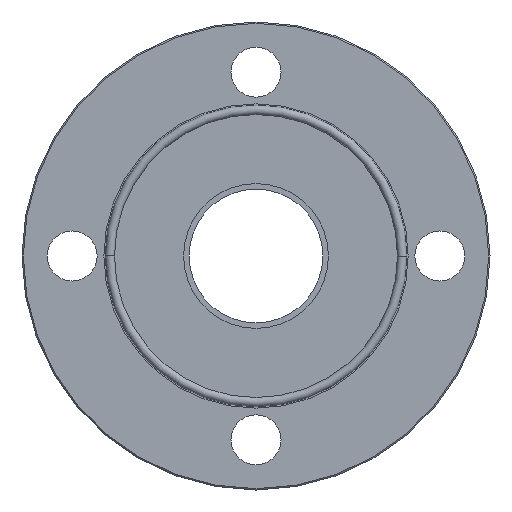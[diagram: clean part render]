
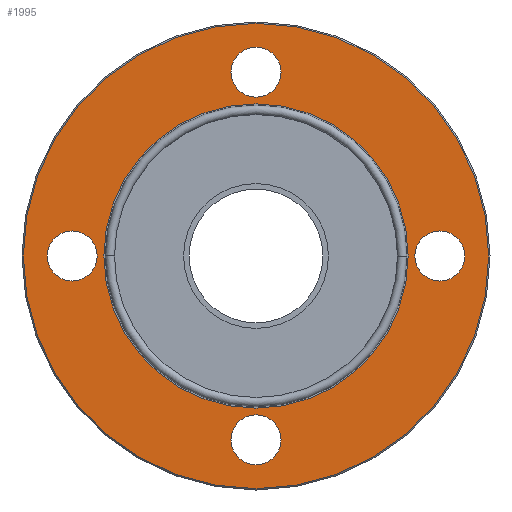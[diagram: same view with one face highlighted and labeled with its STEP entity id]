
A CAD part, left-side view. The second image highlights one B-rep face of the part: STEP entity #1995.
In plain terms, the highlighted planar face has unit normal (-1, 0, 0).
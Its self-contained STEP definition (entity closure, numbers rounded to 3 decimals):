
#925=PLANE('',#7444);
#1762=FACE_BOUND('',#2802,.T.);
#1763=FACE_BOUND('',#2803,.T.);
#1764=FACE_BOUND('',#2804,.T.);
#1765=FACE_BOUND('',#2805,.T.);
#1766=FACE_BOUND('',#2806,.T.);
#1767=FACE_BOUND('',#2807,.T.);
#1995=ADVANCED_FACE('',(#1762,#1763,#1764,#1765,#1766,#1767),#925,.T.);
#2802=EDGE_LOOP('',(#3844,#3845));
#2803=EDGE_LOOP('',(#3846,#3847));
#2804=EDGE_LOOP('',(#3848,#3849));
#2805=EDGE_LOOP('',(#3850,#3851));
#2806=EDGE_LOOP('',(#3852,#3853));
#2807=EDGE_LOOP('',(#3854,#3855));
#3844=ORIENTED_EDGE('',*,*,#6631,.T.);
#3845=ORIENTED_EDGE('',*,*,#6065,.T.);
#3846=ORIENTED_EDGE('',*,*,#6632,.F.);
#3847=ORIENTED_EDGE('',*,*,#6315,.F.);
#3848=ORIENTED_EDGE('',*,*,#6633,.F.);
#3849=ORIENTED_EDGE('',*,*,#6311,.F.);
#3850=ORIENTED_EDGE('',*,*,#6634,.F.);
#3851=ORIENTED_EDGE('',*,*,#6307,.F.);
#3852=ORIENTED_EDGE('',*,*,#6635,.F.);
#3853=ORIENTED_EDGE('',*,*,#6303,.F.);
#3854=ORIENTED_EDGE('',*,*,#6636,.F.);
#3855=ORIENTED_EDGE('',*,*,#6295,.F.);
#5324=VERTEX_POINT('',#9191);
#5325=VERTEX_POINT('',#9192);
#5489=VERTEX_POINT('',#10791);
#5490=VERTEX_POINT('',#10793);
#5497=VERTEX_POINT('',#10809);
#5498=VERTEX_POINT('',#10811);
#5501=VERTEX_POINT('',#10818);
#5502=VERTEX_POINT('',#10820);
#5505=VERTEX_POINT('',#10827);
#5506=VERTEX_POINT('',#10829);
#5509=VERTEX_POINT('',#10836);
#5510=VERTEX_POINT('',#10838);
#6065=EDGE_CURVE('',#5324,#5325,#7158,.T.);
#6295=EDGE_CURVE('',#5489,#5490,#7169,.T.);
#6303=EDGE_CURVE('',#5497,#5498,#7173,.T.);
#6307=EDGE_CURVE('',#5501,#5502,#7175,.T.);
#6311=EDGE_CURVE('',#5505,#5506,#7177,.T.);
#6315=EDGE_CURVE('',#5509,#5510,#7179,.T.);
#6631=EDGE_CURVE('',#5325,#5324,#7190,.T.);
#6632=EDGE_CURVE('',#5510,#5509,#7191,.T.);
#6633=EDGE_CURVE('',#5506,#5505,#7192,.T.);
#6634=EDGE_CURVE('',#5502,#5501,#7193,.T.);
#6635=EDGE_CURVE('',#5498,#5497,#7194,.T.);
#6636=EDGE_CURVE('',#5490,#5489,#7195,.T.);
#7158=CIRCLE('',#7252,88.4);
#7169=CIRCLE('',#7335,57.8);
#7173=CIRCLE('',#7341,9.5);
#7175=CIRCLE('',#7344,9.5);
#7177=CIRCLE('',#7347,9.5);
#7179=CIRCLE('',#7350,9.5);
#7190=CIRCLE('',#7438,88.4);
#7191=CIRCLE('',#7439,9.5);
#7192=CIRCLE('',#7440,9.5);
#7193=CIRCLE('',#7441,9.5);
#7194=CIRCLE('',#7442,9.5);
#7195=CIRCLE('',#7443,57.8);
#7252=AXIS2_PLACEMENT_3D('',#9190,#7631,#7632);
#7335=AXIS2_PLACEMENT_3D('',#10792,#7880,#7881);
#7341=AXIS2_PLACEMENT_3D('',#10810,#7896,#7897);
#7344=AXIS2_PLACEMENT_3D('',#10819,#7904,#7905);
#7347=AXIS2_PLACEMENT_3D('',#10828,#7912,#7913);
#7350=AXIS2_PLACEMENT_3D('',#10837,#7920,#7921);
#7438=AXIS2_PLACEMENT_3D('',#13671,#8185,#8186);
#7439=AXIS2_PLACEMENT_3D('',#13672,#8187,#8188);
#7440=AXIS2_PLACEMENT_3D('',#13673,#8189,#8190);
#7441=AXIS2_PLACEMENT_3D('',#13674,#8191,#8192);
#7442=AXIS2_PLACEMENT_3D('',#13675,#8193,#8194);
#7443=AXIS2_PLACEMENT_3D('',#13676,#8195,#8196);
#7444=AXIS2_PLACEMENT_3D('',#13677,#8197,#8198);
#7631=DIRECTION('',(-1.,0.,0.));
#7632=DIRECTION('',(0.,-1.,0.));
#7880=DIRECTION('',(-1.,0.,0.));
#7881=DIRECTION('',(0.,-1.,0.));
#7896=DIRECTION('',(-1.,0.,0.));
#7897=DIRECTION('',(0.,0.,-1.));
#7904=DIRECTION('',(-1.,0.,0.));
#7905=DIRECTION('',(0.,1.,0.));
#7912=DIRECTION('',(-1.,0.,0.));
#7913=DIRECTION('',(0.,0.,1.));
#7920=DIRECTION('',(-1.,0.,0.));
#7921=DIRECTION('',(0.,-1.,0.));
#8185=DIRECTION('',(-1.,0.,0.));
#8186=DIRECTION('',(0.,-1.,0.));
#8187=DIRECTION('',(-1.,0.,0.));
#8188=DIRECTION('',(0.,-1.,0.));
#8189=DIRECTION('',(-1.,0.,0.));
#8190=DIRECTION('',(0.,0.,1.));
#8191=DIRECTION('',(-1.,0.,0.));
#8192=DIRECTION('',(0.,1.,0.));
#8193=DIRECTION('',(-1.,0.,0.));
#8194=DIRECTION('',(0.,0.,-1.));
#8195=DIRECTION('',(-1.,0.,0.));
#8196=DIRECTION('',(0.,-1.,0.));
#8197=DIRECTION('',(-1.,0.,0.));
#8198=DIRECTION('',(0.,1.,0.));
#9190=CARTESIAN_POINT('',(0.,0.,0.));
#9191=CARTESIAN_POINT('',(0.,-88.4,0.));
#9192=CARTESIAN_POINT('',(0.,88.4,0.));
#10791=CARTESIAN_POINT('',(0.,57.8,0.));
#10792=CARTESIAN_POINT('',(0.,0.,
0.));
#10793=CARTESIAN_POINT('',(0.,-57.8,0.));
#10809=CARTESIAN_POINT('',(0.,9.5,69.85));
#10810=CARTESIAN_POINT('',(0.,0.,69.85));
#10811=CARTESIAN_POINT('',(0.,-9.5,69.85));
#10818=CARTESIAN_POINT('',(0.,-60.35,0.));
#10819=CARTESIAN_POINT('',(0.,-69.85,0.));
#10820=CARTESIAN_POINT('',(0.,-79.35,0.));
#10827=CARTESIAN_POINT('',(0.,9.5,-69.85));
#10828=CARTESIAN_POINT('',(0.,0.,-69.85));
#10829=CARTESIAN_POINT('',(0.,-9.5,-69.85));
#10836=CARTESIAN_POINT('',(0.,79.35,0.));
#10837=CARTESIAN_POINT('',(0.,69.85,0.));
#10838=CARTESIAN_POINT('',(0.,60.35,0.));
#13671=CARTESIAN_POINT('',(0.,0.,0.));
#13672=CARTESIAN_POINT('',(0.,69.85,0.));
#13673=CARTESIAN_POINT('',(0.,0.,-69.85));
#13674=CARTESIAN_POINT('',(0.,-69.85,0.));
#13675=CARTESIAN_POINT('',(0.,0.,69.85));
#13676=CARTESIAN_POINT('',(0.,0.,
0.));
#13677=CARTESIAN_POINT('',(0.,0.,0.));
